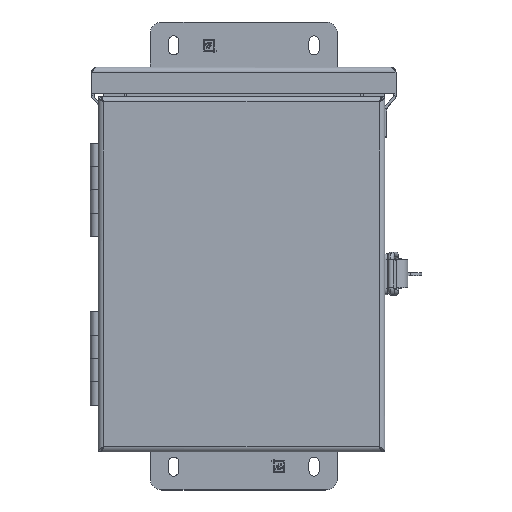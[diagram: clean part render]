
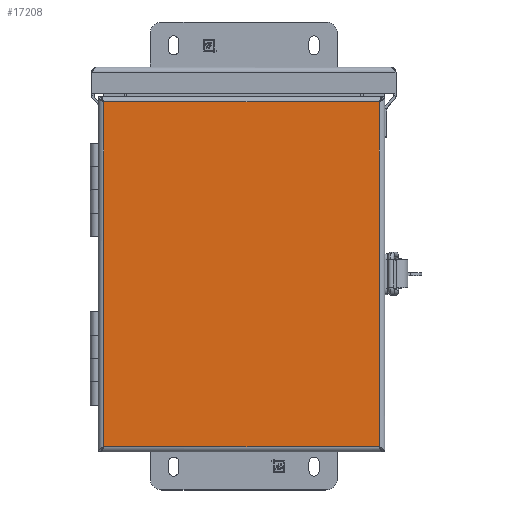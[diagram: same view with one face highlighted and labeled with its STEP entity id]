
A CAD part, top view. The second image highlights one B-rep face of the part: STEP entity #17208.
In plain terms, the highlighted planar face has unit normal (0, 0, 1).
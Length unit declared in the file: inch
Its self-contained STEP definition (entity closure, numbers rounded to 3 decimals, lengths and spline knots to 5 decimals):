
#946 = VERTEX_POINT ( 'NONE', #18282 ) ;
#950 = VERTEX_POINT ( 'NONE', #18273 ) ;
#953 = VERTEX_POINT ( 'NONE', #18266 ) ;
#954 = VERTEX_POINT ( 'NONE', #18263 ) ;
#2921 = FACE_OUTER_BOUND ( 'NONE', #16144, .T. ) ;
#8343 = DIRECTION ( 'NONE',  ( 1., 0., 0. ) ) ;
#8345 = DIRECTION ( 'NONE',  ( 0., 0., 1. ) ) ;
#8350 = CARTESIAN_POINT ( 'NONE',  ( 3.06, -3.795, 0.055 ) ) ;
#8381 = PLANE ( 'NONE',  #13712 ) ;
#13712 = AXIS2_PLACEMENT_3D ( 'NONE', #8350, #8345, #8343 ) ;
#14484 = EDGE_CURVE ( 'NONE', #954, #946, #28127, .T. ) ;
#15074 = ORIENTED_EDGE ( 'NONE', *, *, #14484, .T. ) ;
#15076 = ORIENTED_EDGE ( 'NONE', *, *, #22793, .T. ) ;
#15078 = ORIENTED_EDGE ( 'NONE', *, *, #22765, .T. ) ;
#15079 = ORIENTED_EDGE ( 'NONE', *, *, #22762, .T. ) ;
#16144 = EDGE_LOOP ( 'NONE', ( #15078, #15079, #15076, #15074 ) ) ;
#17208 = ADVANCED_FACE ( 'NONE', ( #2921 ), #8381, .T. ) ;
#18263 = CARTESIAN_POINT ( 'NONE',  ( 2.945, 3.68, 0.055 ) ) ;
#18266 = CARTESIAN_POINT ( 'NONE',  ( 2.945, -3.68, 0.055 ) ) ;
#18273 = CARTESIAN_POINT ( 'NONE',  ( -2.945, -3.68, 0.055 ) ) ;
#18282 = CARTESIAN_POINT ( 'NONE',  ( -2.945, 3.68, 0.055 ) ) ;
#19300 = CARTESIAN_POINT ( 'NONE',  ( -2.945, 3.73929, 0.055 ) ) ;
#19506 = DIRECTION ( 'NONE',  ( 0., -1., 0. ) ) ;
#20132 = DIRECTION ( 'NONE',  ( 0., 1., 0. ) ) ;
#20162 = CARTESIAN_POINT ( 'NONE',  ( 2.945, -3.73929, 0.055 ) ) ;
#20266 = CARTESIAN_POINT ( 'NONE',  ( -3.00429, -3.68, 0.055 ) ) ;
#20269 = DIRECTION ( 'NONE',  ( 1., 0., 0. ) ) ;
#22102 = LINE ( 'NONE', #20162, #22137 ) ;
#22137 = VECTOR ( 'NONE', #20132, 39.37008 ) ;
#22346 = LINE ( 'NONE', #19300, #22347 ) ;
#22347 = VECTOR ( 'NONE', #19506, 39.37008 ) ;
#22355 = VECTOR ( 'NONE', #20269, 39.37008 ) ;
#22372 = LINE ( 'NONE', #20266, #22355 ) ;
#22762 = EDGE_CURVE ( 'NONE', #950, #953, #22372, .T. ) ;
#22765 = EDGE_CURVE ( 'NONE', #946, #950, #22346, .T. ) ;
#22793 = EDGE_CURVE ( 'NONE', #953, #954, #22102, .T. ) ;
#26406 = CARTESIAN_POINT ( 'NONE',  ( 3.00429, 3.68, 0.055 ) ) ;
#26407 = DIRECTION ( 'NONE',  ( -1., 0., 0. ) ) ;
#27806 = VECTOR ( 'NONE', #26407, 39.37008 ) ;
#28127 = LINE ( 'NONE', #26406, #27806 ) ;
